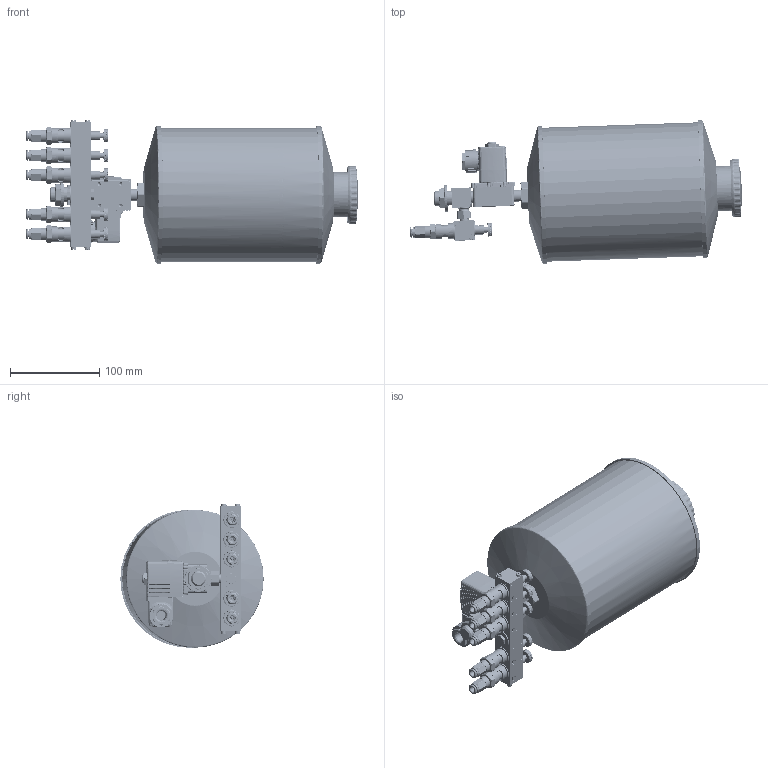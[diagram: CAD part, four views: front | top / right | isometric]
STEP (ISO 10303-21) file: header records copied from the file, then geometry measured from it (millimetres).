
FILE_DESCRIPTION (( 'STEP AP214' ), '1' );
FILE_NAME ('TRO_03_03_05_XXX.STEP', '2025-11-24T15:11:48', ( '' ), ( '' ), 'SwSTEP 2.0', 'SolidWorks 2022', '' );
FILE_SCHEMA (( 'AUTOMOTIVE_DESIGN' ));
Length unit declared in the file: millimetre
Products named in the file (20): RIVOLUZIONE_0; DR6-C_HDX_25.07.16; TRO_2er; R200107-N1; OR 7.66X1.78; TRO_Behaelter_03; TRO_Stutzen.SLDPRT; OR 7.2X1.9_1; TRO_Magnetventil_Stecker; TRO_2er_mittel; TRO_2er_mittel_Mit_Verschr.SLDPRT; DR6_NEU; 9911 0701 0601_6_1_8_HD; TRO_03_03_05_XXX; TRO_Magnetventil_ohne; TRO_Endplatte; TRO_Magnetventil_aktuell; TRO_1er_Mit_Verschr.SLDPRT
Assembly tree (20 placements, depth 4):
  R200107-N1
  OR 7.2X1.9_1
  DR6_NEU
  TRO_03_03_05_XXX
    TRO_2er_mittel_Mit_Verschr.SLDPRT
      TRO_Stutzen.SLDPRT
        TRO_2er_mittel
      TRO_2er
      9911 0701 0601_6_1_8_HD  x2
        RIVOLUZIONE_0
        OR 7.66X1.78
        DR6-C_HDX_25.07.16
    TRO_1er_Mit_Verschr.SLDPRT  x3
      TRO_2er
      9911 0701 0601_6_1_8_HD
        RIVOLUZIONE_0
        OR 7.66X1.78
        DR6-C_HDX_25.07.16
    TRO_Magnetventil_aktuell
      TRO_Magnetventil_ohne
      TRO_Magnetventil_Stecker
    TRO_Endplatte  x2
    TRO_Behaelter_03
  TRO_2er_mittel
Bounding box: 371.57 x 160.4 x 160.6 mm (x, y, z)
Volume: 583015.7 mm3; surface area: 397761.4 mm2
Topology: 34 solids, 34 shells, 7614 faces, 19746 edges, 12310 vertices
Faces by surface type: bspline 2859, plane 2802, cylinder 1249, cone 701, torus 3
Full cylindrical faces by diameter (mm): 1.5 x5, 2 x5, 3.5 x9, 3.8 x5, 4.2 x5, 4.5 x5, 5.5 x4, 5.9 x10, 6 x2, 6.2 x5, 6.25 x1, 6.3 x5, 6.75 x1, 7 x6, 7.2 x5, 7.4 x1, 8 x2, 8.3 x5, 8.4 x1, 8.5 x1, 8.6 x8, 8.8 x1, 9 x6, 9.2 x1, 9.5 x5, 9.728 x5, 9.8 x1, 9.9 x5, 10 x14, 10.1 x1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
Entity records: 313289 total; most frequent: CARTESIAN_POINT 170838, ORIENTED_EDGE 32198, DIRECTION 18638, EDGE_CURVE 16099, VERTEX_POINT 10212, B_SPLINE_CURVE_WITH_KNOTS 7533, AXIS2_PLACEMENT_3D 7007, EDGE_LOOP 6977
